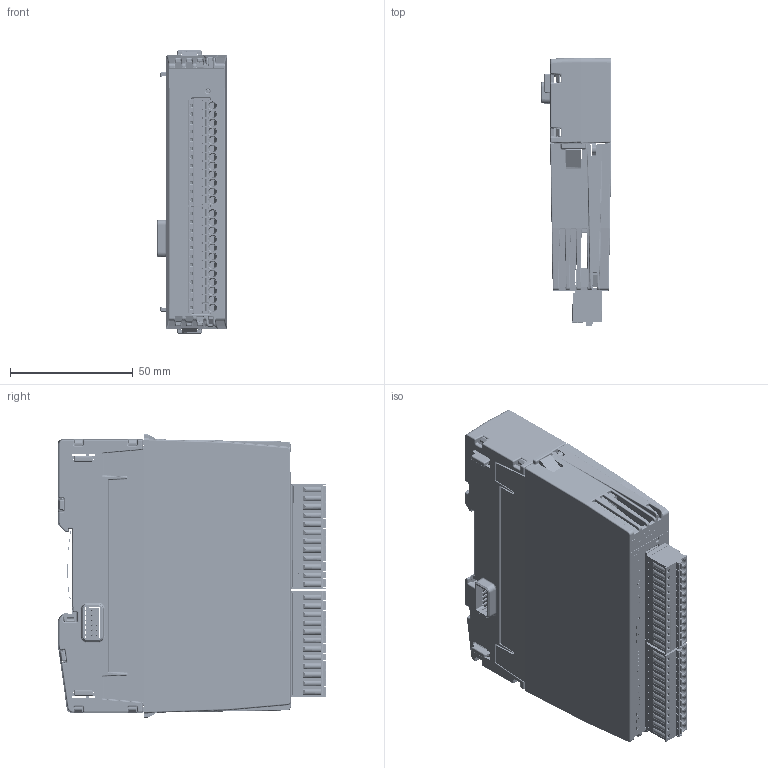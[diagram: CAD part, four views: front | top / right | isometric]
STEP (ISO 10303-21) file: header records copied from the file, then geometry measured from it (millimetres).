
FILE_DESCRIPTION(/* description */ (''),/* implementation_level */ '2;1');
FILE_NAME(/* name */ 'C:\Users\Public\Documents\Autodesk\Inventor 2023\DO08R_Simplified+BackBB21B.stp',/* time_stamp */ '2024-10-16T19:54:44+02:00',/* author */ ('shoma'),/* organization */ (''),/* preprocessor_version */ 'ST-DEVELOPER v19',/* originating_system */ 'Autodesk Inventor 2023',/* authorisation */ '');
FILE_SCHEMA (('AUTOMOTIVE_DESIGN { 1 0 10303 214 3 1 1 }'));
Products named in the file (1): DO08R_Simplified+BackBB21B
Bounding box: 28.9 x 109.39 x 115.5 mm (x, y, z)
Volume: 153432.4 mm3; surface area: 92866.4 mm2
Topology: 8 solids, 56 shells, 9295 faces, 24608 edges, 15506 vertices
Faces by surface type: plane 5595, cylinder 2391, bspline 869, cone 233, sphere 162, torus 45
Full cylindrical faces by diameter (mm): 0.296 x2, 0.3 x152, 0.457 x2, 0.7 x36, 0.8 x6, 0.85 x24, 0.9 x8, 1.17 x24, 1.2 x24, 1.25 x24, 1.3 x24, 1.4 x4, 1.6 x26, 2.35 x2, 2.5 x1, 3 x1, 3.1 x24, 3.25 x2
Entity records: 321202 total; most frequent: CARTESIAN_POINT 82682, ORIENTED_EDGE 48910, DIRECTION 45400, EDGE_CURVE 24455, LINE 17226, VECTOR 17226, VERTEX_POINT 15506, AXIS2_PLACEMENT_3D 14087
